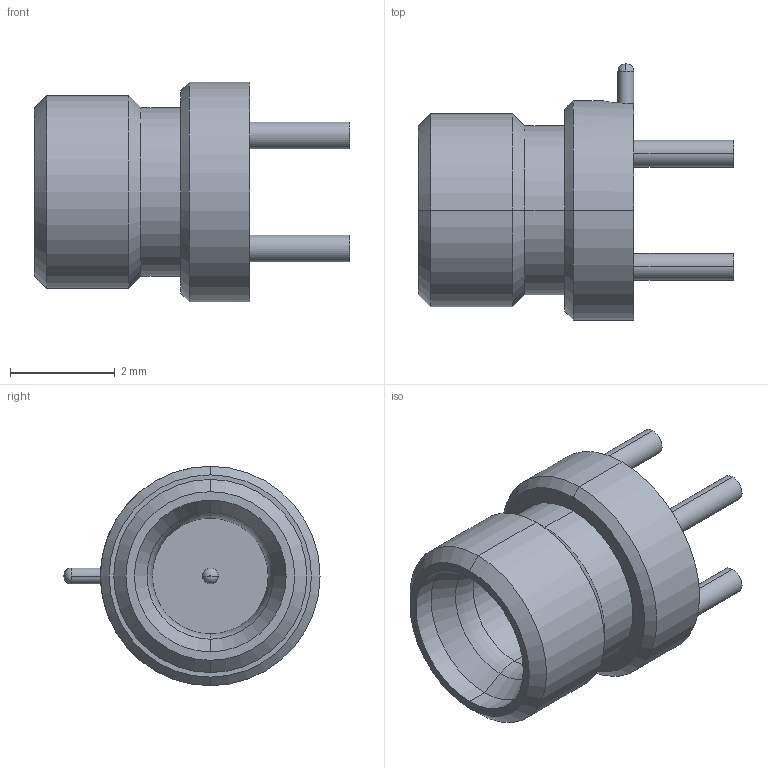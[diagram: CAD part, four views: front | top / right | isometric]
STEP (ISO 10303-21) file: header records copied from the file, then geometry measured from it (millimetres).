
FILE_DESCRIPTION (( 'STEP AP203' ), '1' );
FILE_NAME ('3212-60037.STEP', '2023-03-22T14:52:37', ( '' ), ( '' ), 'SwSTEP 2.0', 'SolidWorks 2022', '' );
FILE_SCHEMA (( 'CONFIG_CONTROL_DESIGN' ));
Length unit declared in the file: inch
Products named in the file (1): 3212-60037
Bounding box: 6.02 x 4.89 x 4.19 mm (x, y, z)
Volume: 36.4 mm3; surface area: 107 mm2
Topology: 1 solids, 1 shells, 55 faces, 119 edges, 73 vertices
Faces by surface type: cylinder 25, plane 13, cone 11, torus 6
Entity records: 1661 total; most frequent: CARTESIAN_POINT 333, DIRECTION 294, ORIENTED_EDGE 238, AXIS2_PLACEMENT_3D 126, EDGE_CURVE 119, VERTEX_POINT 73, CIRCLE 70, EDGE_LOOP 62
